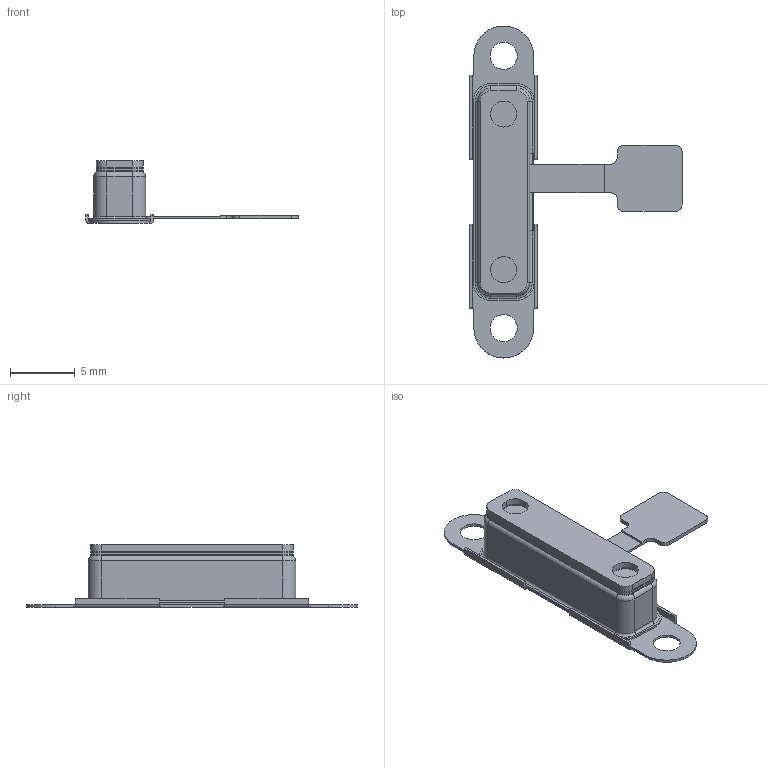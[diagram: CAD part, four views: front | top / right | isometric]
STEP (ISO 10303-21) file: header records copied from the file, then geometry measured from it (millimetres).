
FILE_DESCRIPTION((''),'2;1');
FILE_NAME('MICMODULE_BASIC_ASM_ASM_27_ASM','2024-04-24T10:56:36',('Rising'),(''),'CREO PARAMETRIC BY PTC INC, 2020281','CREO PARAMETRIC BY PTC INC, 2020281','');
FILE_SCHEMA(('AUTOMOTIVE_DESIGN { 1 0 10303 214 1 1 1 1 }'));
Products named in the file (18): LID_25; ASIC_25; MEMS_DIE_25; BASE_PCB_25; SKR0400_0410_0600_0610_STP_1_AS_ASM; SKR0600_FLEX2_PLUG_34; SKR0600_WITHFLEX_ASM_12_ASM; MICMODULE_CASE_30; MICMODULE_TUBE_33; MICMODULE_LID3_21; MICMODULE_RUBBER_24; MICMODULE_GASKET_ADH1_26; MICMODULE_GASKET_MESH_26; MICMODULE_GASKET_ADH2_27; MICMODULE_GASKET_FOAM_27; MICMODULE_GASKET_ASM_27_ASM; MICMODULE_SEALINGGLUE_21; MICMODULE_BASIC_ASM_ASM_27_ASM
Assembly tree (18 placements, depth 4):
  MICMODULE_BASIC_ASM_ASM_27_ASM
    SKR0600_WITHFLEX_ASM_12_ASM
      SKR0400_0410_0600_0610_STP_1_AS_ASM
        LID_25
        ASIC_25
        MEMS_DIE_25
        BASE_PCB_25
      SKR0600_FLEX2_PLUG_34
    MICMODULE_CASE_30
    MICMODULE_TUBE_33  x2
    MICMODULE_LID3_21
    MICMODULE_RUBBER_24
    MICMODULE_GASKET_ASM_27_ASM
      MICMODULE_GASKET_ADH1_26
      MICMODULE_GASKET_MESH_26
      MICMODULE_GASKET_ADH2_27
      MICMODULE_GASKET_FOAM_27
    MICMODULE_SEALINGGLUE_21
Bounding box: 16.35 x 25.6 x 4.85 mm (x, y, z)
Volume: 240.2 mm3; surface area: 1704.7 mm2
Topology: 15 solids, 15 shells, 578 faces, 1525 edges, 1000 vertices
Faces by surface type: plane 324, cylinder 218, bspline 16, torus 16, cone 4
Entity records: 25621 total; most frequent: CARTESIAN_POINT 3982, DIRECTION 3404, ORIENTED_EDGE 2766, EDGE_CURVE 1383, PRESENTATION_STYLE_ASSIGNMENT 1283, STYLED_ITEM 1260, CURVE_STYLE 1241, AXIS2_PLACEMENT_3D 1211
